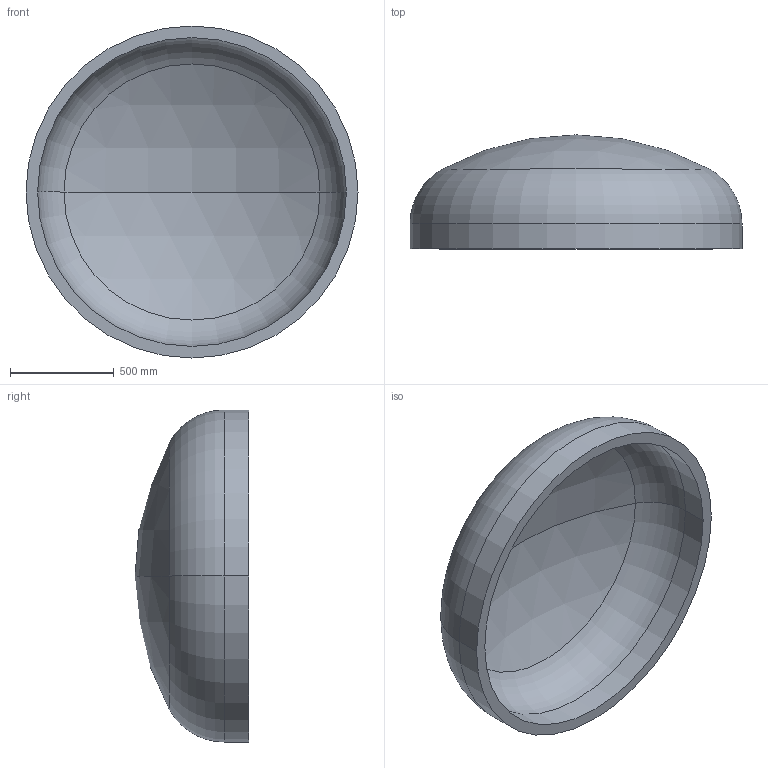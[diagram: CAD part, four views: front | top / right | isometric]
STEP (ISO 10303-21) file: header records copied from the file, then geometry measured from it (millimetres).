
FILE_DESCRIPTION (( 'STEP AP203' ), '1' );
FILE_NAME ('DIN 28013 Korbbogenform_-_Boden DIN 28013 - 1600 x 120 - I - s=56.step', '2016-07-01T11:21:00', ( '' ), ( '' ), 'SwSTEP 2.0', 'SolidWorks 2013', '' );
FILE_SCHEMA (( 'CONFIG_CONTROL_DESIGN' ));
Length unit declared in the file: millimetre
Products named in the file (1): DIN 28013 Korbbogenform_-_Boden DIN 28013 - 1600 x 120 - I - s=56
Bounding box: 1600 x 549.23 x 1600 mm (x, y, z)
Volume: 181425391.5 mm3; surface area: 6757679.1 mm2
Topology: 1 solids, 1 shells, 13 faces, 24 edges, 14 vertices
Faces by surface type: torus 4, cylinder 4, sphere 4, plane 1
Entity records: 407 total; most frequent: DIRECTION 72, CARTESIAN_POINT 52, ORIENTED_EDGE 48, AXIS2_PLACEMENT_3D 34, EDGE_CURVE 24, CIRCLE 20, EDGE_LOOP 14, VERTEX_POINT 14
